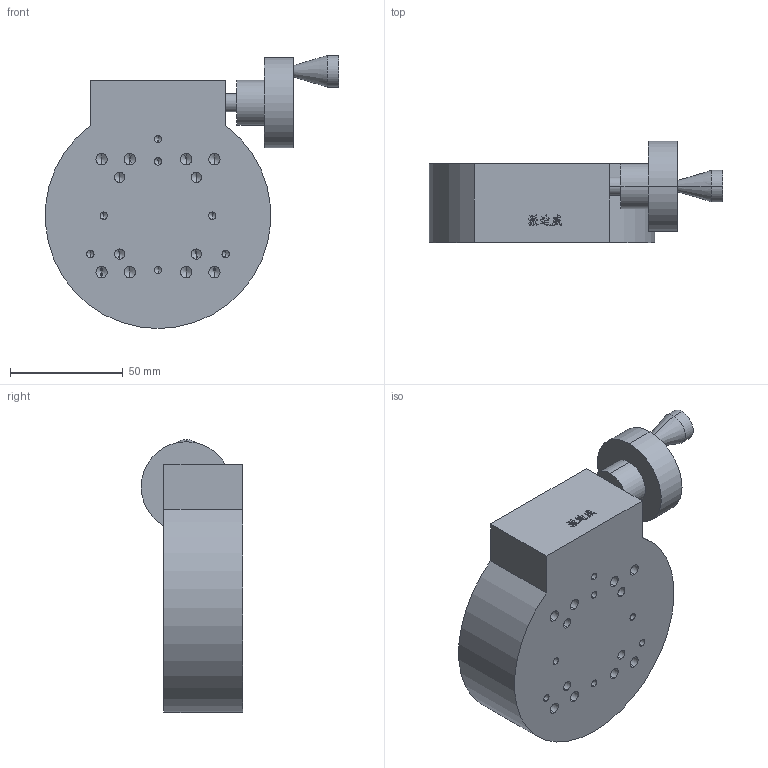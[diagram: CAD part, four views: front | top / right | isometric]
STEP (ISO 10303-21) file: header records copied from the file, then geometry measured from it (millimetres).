
FILE_DESCRIPTION (( 'STEP AP214' ), '1' );
FILE_NAME ('PT-SD203（手轮）.STEP', '2022-09-24T01:33:08', ( '' ), ( '' ), 'SwSTEP 2.0', 'SolidWorks 2017', '' );
FILE_SCHEMA (( 'AUTOMOTIVE_DESIGN' ));
Length unit declared in the file: millimetre
Products named in the file (1): PT-SD203ㄗ忒謫ㄘ
Bounding box: 129.87 x 45 x 121 mm (x, y, z)
Volume: 312616.8 mm3; surface area: 48354 mm2
Topology: 1 solids, 1 shells, 380 faces, 1004 edges, 599 vertices
Faces by surface type: plane 112, cylinder 100, cone 87, bspline 81
Entity records: 14192 total; most frequent: CARTESIAN_POINT 5648, ORIENTED_EDGE 1840, DIRECTION 1533, EDGE_CURVE 920, VERTEX_POINT 599, LINE 531, VECTOR 531, AXIS2_PLACEMENT_3D 501
